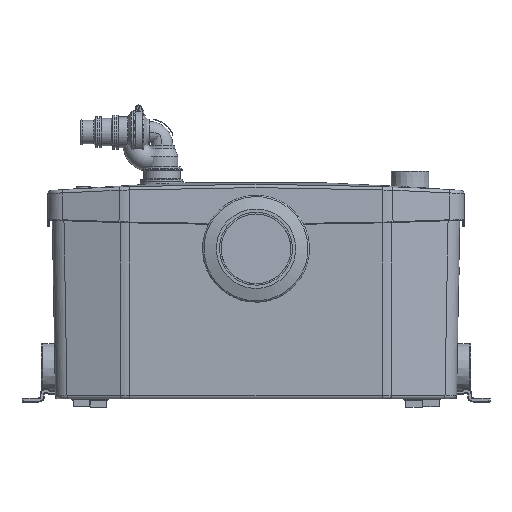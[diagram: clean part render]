
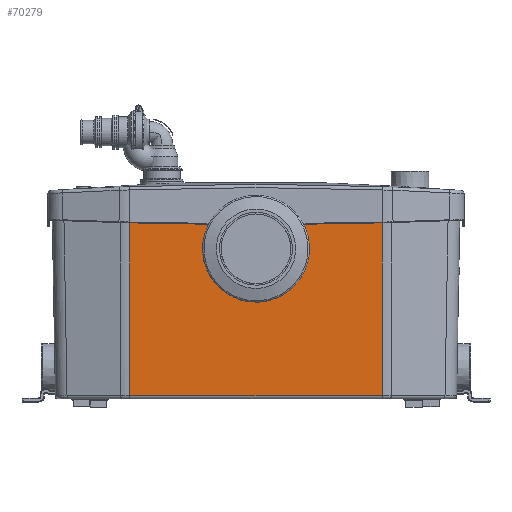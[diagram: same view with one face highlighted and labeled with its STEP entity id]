
A CAD part, top view. The second image highlights one B-rep face of the part: STEP entity #70279.
In plain terms, the highlighted planar face has unit normal (0, -0.018, 1).
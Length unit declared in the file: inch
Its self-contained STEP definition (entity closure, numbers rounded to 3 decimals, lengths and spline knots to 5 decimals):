
#390 = CARTESIAN_POINT ( 'NONE',  ( -2.42481, -0.11538, 3.38381 ) ) ;
#702 = DIRECTION ( 'NONE',  ( -0.087, -0.996, -0.017 ) ) ;
#2132 = CARTESIAN_POINT ( 'NONE',  ( 6.37795, 0., 3.38583 ) ) ;
#2464 = DIRECTION ( 'NONE',  ( -1., 0., 0. ) ) ;
#3456 = CARTESIAN_POINT ( 'NONE',  ( -6.15088, -0.03152, 3.38528 ) ) ;
#3838 = ORIENTED_EDGE ( 'NONE', *, *, #20873, .T. ) ;
#5184 = CARTESIAN_POINT ( 'NONE',  ( 6.1253, -10.04212, 3.21054 ) ) ;
#6722 = VERTEX_POINT ( 'NONE', #7738 ) ;
#6809 = VECTOR ( 'NONE', #67108, 39.37008 ) ;
#7738 = CARTESIAN_POINT ( 'NONE',  ( -6.12569, -10.04212, 3.21054 ) ) ;
#8199 = DIRECTION ( 'NONE',  ( 0., -1., -0.017 ) ) ;
#8727 = CARTESIAN_POINT ( 'NONE',  ( 6.12569, -10.04212, 3.21054 ) ) ;
#9652 = VERTEX_POINT ( 'NONE', #27993 ) ;
#13286 = LINE ( 'NONE', #5184, #43679 ) ;
#13496 = VECTOR ( 'NONE', #2464, 39.37008 ) ;
#14971 = FACE_OUTER_BOUND ( 'NONE', #30048, .T. ) ;
#16927 = EDGE_CURVE ( 'NONE', #9652, #31235, #18017, .T. ) ;
#17458 = ORIENTED_EDGE ( 'NONE', *, *, #46240, .T. ) ;
#17850 = ORIENTED_EDGE ( 'NONE', *, *, #38811, .T. ) ;
#18017 =( BOUNDED_CURVE ( )  B_SPLINE_CURVE ( 3, ( #48545, #42504, #18369, #60766, #24527, #66832, #30624 ),
 .UNSPECIFIED., .F., .F. ) 
 B_SPLINE_CURVE_WITH_KNOTS ( ( 4, 3, 4 ),
 ( 4.71075, 6.28319, 7.85562 ),
 .UNSPECIFIED. ) 
 CURVE ( )  GEOMETRIC_REPRESENTATION_ITEM ( )  RATIONAL_B_SPLINE_CURVE ( ( 1., 0.804, 0.804, 1., 0.804, 0.804, 1. ) ) 
 REPRESENTATION_ITEM ( '' )  );
#18369 = CARTESIAN_POINT ( 'NONE',  ( 1.14538, -4.86614, 3.30089 ) ) ;
#19055 = CARTESIAN_POINT ( 'NONE',  ( 2.09358, -2.88931, 3.33539 ) ) ;
#20097 = DIRECTION ( 'NONE',  ( 0.003, 1., 0.017 ) ) ;
#20873 = EDGE_CURVE ( 'NONE', #31235, #29840, #60952, .T. ) ;
#20941 = VERTEX_POINT ( 'NONE', #31006 ) ;
#21449 = EDGE_CURVE ( 'NONE', #30772, #71299, #29710, .T. ) ;
#22596 = VECTOR ( 'NONE', #75421, 39.37008 ) ;
#24136 = VERTEX_POINT ( 'NONE', #77152 ) ;
#24491 = VECTOR ( 'NONE', #20097, 39.37008 ) ;
#24527 = CARTESIAN_POINT ( 'NONE',  ( -1.14538, -4.86614, 3.30089 ) ) ;
#26120 = CARTESIAN_POINT ( 'NONE',  ( 2.39702, -0.43307, 3.37827 ) ) ;
#27993 = CARTESIAN_POINT ( 'NONE',  ( 1.95275, -2.91019, 3.33503 ) ) ;
#29577 = LINE ( 'NONE', #61030, #6809 ) ;
#29710 = LINE ( 'NONE', #38803, #13496 ) ;
#29840 = VERTEX_POINT ( 'NONE', #32330 ) ;
#30048 = EDGE_LOOP ( 'NONE', ( #66182, #31817, #47249, #42153, #70715, #3838, #17850, #59810, #17458, #56229 ) ) ;
#30212 = CARTESIAN_POINT ( 'NONE',  ( -2.2036, -2.64385, 3.33968 ) ) ;
#30624 = CARTESIAN_POINT ( 'NONE',  ( -1.95275, -2.91019, 3.33503 ) ) ;
#30772 = VERTEX_POINT ( 'NONE', #33873 ) ;
#31006 = CARTESIAN_POINT ( 'NONE',  ( 2.2036, -2.64385, 3.33968 ) ) ;
#31235 = VERTEX_POINT ( 'NONE', #66296 ) ;
#31560 = VECTOR ( 'NONE', #48815, 39.37008 ) ;
#31817 = ORIENTED_EDGE ( 'NONE', *, *, #48016, .T. ) ;
#31939 = EDGE_CURVE ( 'NONE', #20941, #9652, #70011, .T. ) ;
#32048 = EDGE_CURVE ( 'NONE', #70351, #24136, #40575, .T. ) ;
#32076 = CARTESIAN_POINT ( 'NONE',  ( 6.15096, 0.00057, 3.38584 ) ) ;
#32330 = CARTESIAN_POINT ( 'NONE',  ( -2.2036, -2.64385, 3.33968 ) ) ;
#33031 = VECTOR ( 'NONE', #702, 39.37008 ) ;
#33439 = LINE ( 'NONE', #390, #31560 ) ;
#33873 = CARTESIAN_POINT ( 'NONE',  ( -2.39702, -0.43307, 3.37827 ) ) ;
#38803 = CARTESIAN_POINT ( 'NONE',  ( 6.37795, -0.43307, 3.37827 ) ) ;
#38811 = EDGE_CURVE ( 'NONE', #29840, #30772, #33439, .T. ) ;
#39271 = EDGE_CURVE ( 'NONE', #6722, #70351, #13286, .T. ) ;
#40575 = LINE ( 'NONE', #32076, #24491 ) ;
#42153 = ORIENTED_EDGE ( 'NONE', *, *, #31939, .T. ) ;
#42504 = CARTESIAN_POINT ( 'NONE',  ( 1.95463, -4.05557, 3.31504 ) ) ;
#43679 = VECTOR ( 'NONE', #47581, 39.37008 ) ;
#44516 = DIRECTION ( 'NONE',  ( 0., -0.017, 1. ) ) ;
#46240 = EDGE_CURVE ( 'NONE', #71299, #6722, #70894, .T. ) ;
#47249 = ORIENTED_EDGE ( 'NONE', *, *, #62881, .T. ) ;
#47581 = DIRECTION ( 'NONE',  ( 1., 0., 0. ) ) ;
#48016 = EDGE_CURVE ( 'NONE', #24136, #71873, #29577, .T. ) ;
#48545 = CARTESIAN_POINT ( 'NONE',  ( 1.95275, -2.91019, 3.33503 ) ) ;
#48815 = DIRECTION ( 'NONE',  ( -0.087, 0.996, 0.017 ) ) ;
#49074 = LINE ( 'NONE', #61088, #33031 ) ;
#49229 = CARTESIAN_POINT ( 'NONE',  ( 2.2036, -2.64385, 3.33968 ) ) ;
#50283 = PLANE ( 'NONE',  #52865 ) ;
#52865 = AXIS2_PLACEMENT_3D ( 'NONE', #2132, #44516, #8199 ) ;
#54249 = CARTESIAN_POINT ( 'NONE',  ( -2.09358, -2.88931, 3.33539 ) ) ;
#55356 = CARTESIAN_POINT ( 'NONE',  ( 2.19119, -2.78567, 3.3372 ) ) ;
#56229 = ORIENTED_EDGE ( 'NONE', *, *, #39271, .T. ) ;
#56573 = CARTESIAN_POINT ( 'NONE',  ( -6.14987, -0.43307, 3.37827 ) ) ;
#59810 = ORIENTED_EDGE ( 'NONE', *, *, #21449, .T. ) ;
#60363 = CARTESIAN_POINT ( 'NONE',  ( -1.95275, -2.91019, 3.33503 ) ) ;
#60766 = CARTESIAN_POINT ( 'NONE',  ( 0., -4.86614, 3.30089 ) ) ;
#60952 =( BOUNDED_CURVE ( )  B_SPLINE_CURVE ( 3, ( #60363, #54249, #66436, #30212 ),
 .UNSPECIFIED., .F., .F. ) 
 B_SPLINE_CURVE_WITH_KNOTS ( ( 4, 4 ),
 ( 3.28878, 4.62512 ),
 .UNSPECIFIED. ) 
 CURVE ( )  GEOMETRIC_REPRESENTATION_ITEM ( )  RATIONAL_B_SPLINE_CURVE ( ( 1., 0.857, 0.857, 1. ) ) 
 REPRESENTATION_ITEM ( '' )  );
#61030 = CARTESIAN_POINT ( 'NONE',  ( 6.37795, -0.43307, 3.37827 ) ) ;
#61088 = CARTESIAN_POINT ( 'NONE',  ( 2.42481, -0.11538, 3.38381 ) ) ;
#61436 = CARTESIAN_POINT ( 'NONE',  ( 1.95275, -2.91019, 3.33503 ) ) ;
#62881 = EDGE_CURVE ( 'NONE', #71873, #20941, #49074, .T. ) ;
#66182 = ORIENTED_EDGE ( 'NONE', *, *, #32048, .T. ) ;
#66296 = CARTESIAN_POINT ( 'NONE',  ( -1.95275, -2.91019, 3.33503 ) ) ;
#66436 = CARTESIAN_POINT ( 'NONE',  ( -2.19119, -2.78567, 3.3372 ) ) ;
#66832 = CARTESIAN_POINT ( 'NONE',  ( -1.95463, -4.05557, 3.31504 ) ) ;
#67108 = DIRECTION ( 'NONE',  ( -1., 0., 0. ) ) ;
#70011 =( BOUNDED_CURVE ( )  B_SPLINE_CURVE ( 3, ( #49229, #55356, #19055, #61436 ),
 .UNSPECIFIED., .F., .F. ) 
 B_SPLINE_CURVE_WITH_KNOTS ( ( 4, 4 ),
 ( 1.65806, 2.9944 ),
 .UNSPECIFIED. ) 
 CURVE ( )  GEOMETRIC_REPRESENTATION_ITEM ( )  RATIONAL_B_SPLINE_CURVE ( ( 1., 0.857, 0.857, 1. ) ) 
 REPRESENTATION_ITEM ( '' )  );
#70279 = ADVANCED_FACE ( 'NONE', ( #14971 ), #50283, .T. ) ;
#70351 = VERTEX_POINT ( 'NONE', #8727 ) ;
#70715 = ORIENTED_EDGE ( 'NONE', *, *, #16927, .T. ) ;
#70894 = LINE ( 'NONE', #3456, #22596 ) ;
#71299 = VERTEX_POINT ( 'NONE', #56573 ) ;
#71873 = VERTEX_POINT ( 'NONE', #26120 ) ;
#75421 = DIRECTION ( 'NONE',  ( 0.003, -1., -0.017 ) ) ;
#77152 = CARTESIAN_POINT ( 'NONE',  ( 6.14987, -0.43307, 3.37827 ) ) ;
